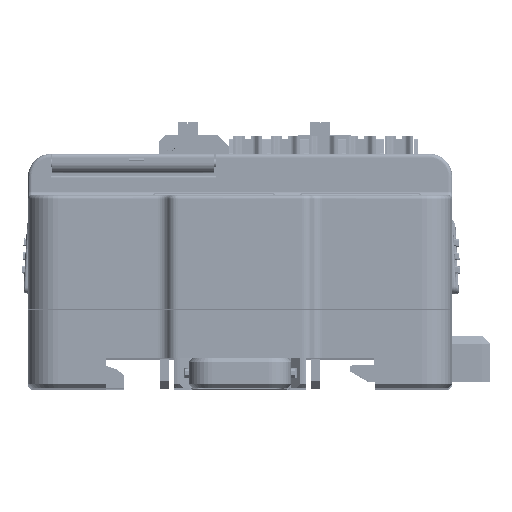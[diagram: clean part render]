
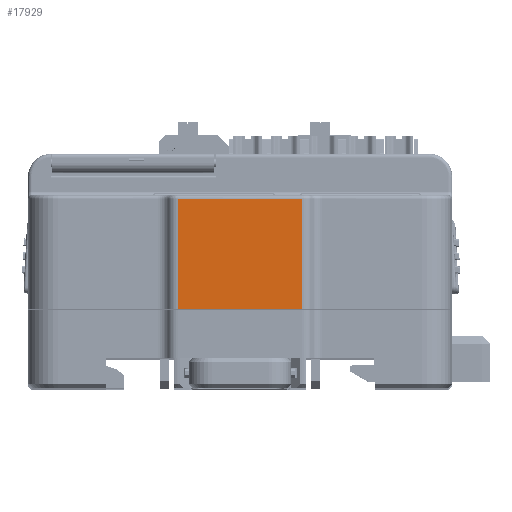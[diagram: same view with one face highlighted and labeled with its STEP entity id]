
A CAD part, top view. The second image highlights one B-rep face of the part: STEP entity #17929.
In plain terms, the highlighted planar face has unit normal (0, 0, 1).
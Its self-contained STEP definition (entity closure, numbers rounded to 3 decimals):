
#2545=B_SPLINE_CURVE_WITH_KNOTS('',3,(#411318,#411319,#411320,#411321),
 .UNSPECIFIED.,.F.,.F.,(4,4),(0.,1.),.UNSPECIFIED.);
#2546=B_SPLINE_CURVE_WITH_KNOTS('',1,(#411323,#411324,#411325,#411326,#411327,
#411328),.UNSPECIFIED.,.F.,.F.,(2,1,1,1,1,2),(0.,0.115,0.204,
0.796,0.885,1.),.UNSPECIFIED.);
#17929=ADVANCED_FACE('',(#45816),#34223,.T.);
#34223=PLANE('',#304499);
#45816=FACE_OUTER_BOUND('',#61461,.T.);
#61461=EDGE_LOOP('',(#80109,#80110,#80111,#80112));
#80109=ORIENTED_EDGE('',*,*,#195016,.T.);
#80110=ORIENTED_EDGE('',*,*,#195157,.F.);
#80111=ORIENTED_EDGE('',*,*,#194633,.F.);
#80112=ORIENTED_EDGE('',*,*,#195158,.T.);
#166023=VERTEX_POINT('',#409658);
#166024=VERTEX_POINT('',#409660);
#166333=VERTEX_POINT('',#410918);
#166336=VERTEX_POINT('',#410929);
#194633=EDGE_CURVE('',#166023,#166024,#238158,.T.);
#195016=EDGE_CURVE('',#166333,#166336,#238435,.T.);
#195157=EDGE_CURVE('',#166024,#166336,#2545,.T.);
#195158=EDGE_CURVE('',#166023,#166333,#2546,.T.);
#238158=LINE('',#409659,#271224);
#238435=LINE('',#410930,#271501);
#271224=VECTOR('',#328578,1.);
#271501=VECTOR('',#329067,1.);
#304499=AXIS2_PLACEMENT_3D('',#411329,#329361,#329362);
#328578=DIRECTION('',(-1.,0.,0.));
#329067=DIRECTION('',(-1.,0.,0.));
#329361=DIRECTION('',(0.,0.,1.));
#329362=DIRECTION('',(-1.,0.,0.));
#409658=CARTESIAN_POINT('',(-196.391,158.747,249.638));
#409659=CARTESIAN_POINT('',(-176.588,158.747,249.638));
#409660=CARTESIAN_POINT('',(-212.785,158.747,249.638));
#410918=CARTESIAN_POINT('',(-196.391,173.342,249.638));
#410929=CARTESIAN_POINT('',(-212.785,173.342,249.638));
#410930=CARTESIAN_POINT('',(-196.391,173.342,249.638));
#411318=CARTESIAN_POINT('',(-212.785,158.747,249.638));
#411319=CARTESIAN_POINT('',(-212.785,163.612,249.638));
#411320=CARTESIAN_POINT('',(-212.785,168.477,249.638));
#411321=CARTESIAN_POINT('',(-212.785,173.342,249.638));
#411323=CARTESIAN_POINT('',(-196.391,151.232,249.638));
#411324=CARTESIAN_POINT('',(-196.391,154.293,249.638));
#411325=CARTESIAN_POINT('',(-196.391,156.647,249.638));
#411326=CARTESIAN_POINT('',(-196.391,172.342,249.638));
#411327=CARTESIAN_POINT('',(-196.391,174.696,249.638));
#411328=CARTESIAN_POINT('',(-196.391,177.756,249.638));
#411329=CARTESIAN_POINT('',(-196.391,172.342,249.638));
